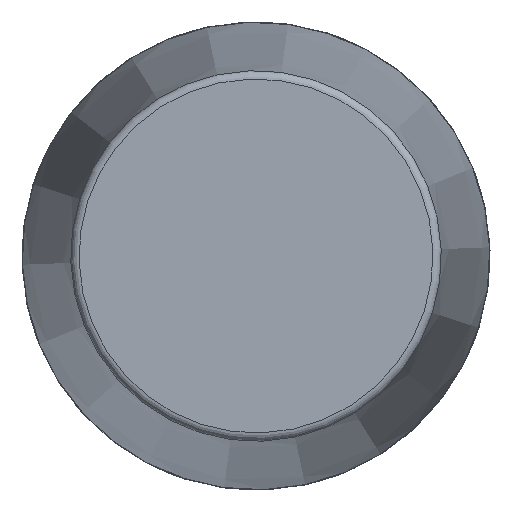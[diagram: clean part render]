
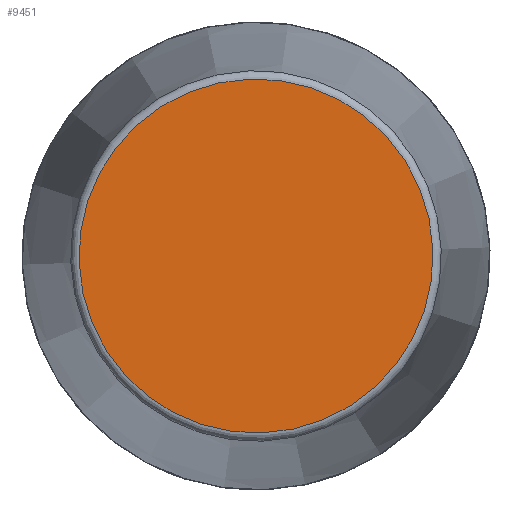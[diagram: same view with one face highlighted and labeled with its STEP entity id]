
A CAD part, front view. The second image highlights one B-rep face of the part: STEP entity #9451.
In plain terms, the highlighted planar face has unit normal (0, -1, 0) as drawn and (1, 0, 0) by its records, which use the part's own axes.
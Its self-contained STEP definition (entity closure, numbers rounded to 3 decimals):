
#2563=PLANE('',#9784);
#3194=FACE_OUTER_BOUND('',#3801,.T.);
#3801=EDGE_LOOP('',(#8895));
#3842=CIRCLE('',#9780,105.83);
#4776=VERTEX_POINT('',#18250);
#6152=EDGE_CURVE('',#4776,#4776,#3842,.T.);
#8895=ORIENTED_EDGE('',*,*,#6152,.F.);
#9451=ADVANCED_FACE('',(#3194),#2563,.T.);
#9780=AXIS2_PLACEMENT_3D('',#18251,#11009,#11010);
#9784=AXIS2_PLACEMENT_3D('',#18257,#11017,#11018);
#11009=DIRECTION('center_axis',(-1.,0.,0.));
#11010=DIRECTION('ref_axis',(0.,0.,
1.));
#11017=DIRECTION('center_axis',(1.,0.,0.));
#11018=DIRECTION('ref_axis',(0.,0.,-1.));
#18250=CARTESIAN_POINT('',(525.5,0.,-105.83));
#18251=CARTESIAN_POINT('Origin',(525.5,0.,0.));
#18257=CARTESIAN_POINT('Origin',(525.5,0.,0.));
